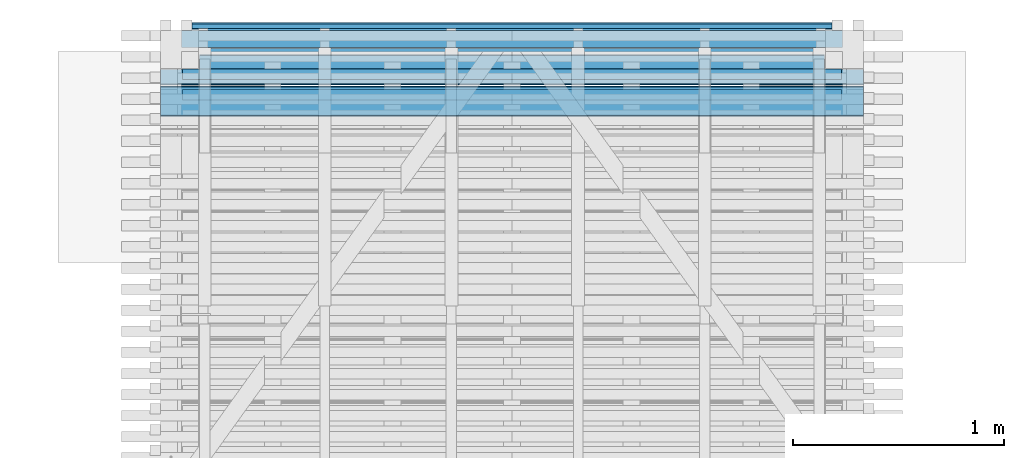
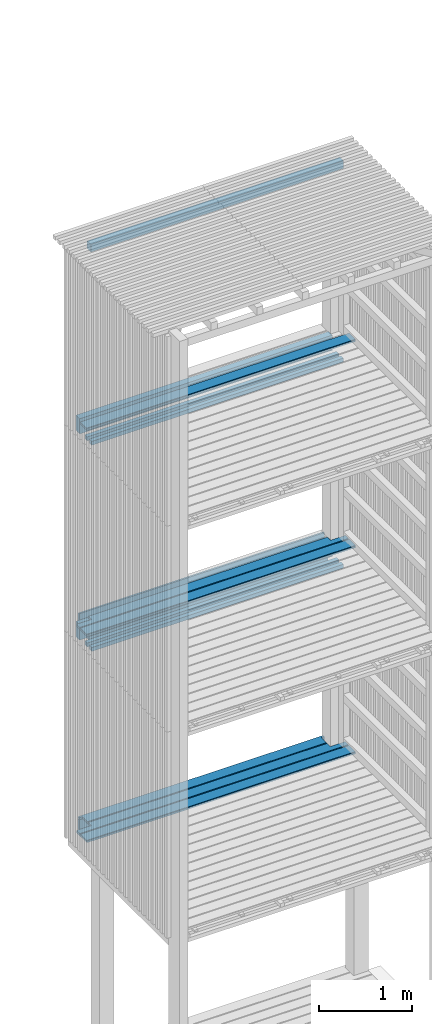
# One storey, part 153 of 182: 16 beams.
"""IFC2X3 building model written with IfcOpenShell, lengths in metres."""

from ifc_helpers import new_model, si_unit, frame, origin, place, context, project, spatial, faceted_brep, element, save


model = new_model("IFC2X3")

# Units and contexts
model_context = context("Model", 3, precision=1e-06, world=origin())
ifc_project = project(units=[si_unit("LENGTHUNIT", "METRE"), si_unit("PLANEANGLEUNIT", "RADIAN")], contexts=[model_context])

# Site, building, storey
site = spatial("IfcSite", under=ifc_project, CompositionType="ELEMENT")
building = spatial("IfcBuilding", under=site, CompositionType="ELEMENT")
storey = spatial("IfcBuildingStorey", under=building, Name="vs", CompositionType="ELEMENT", Elevation=-0.85)

# Beams
placement = place(None, origin())
beam_1_placement = place(placement, frame((33.20318180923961, 12.893577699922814, 5.342499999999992), z_axis=(0.0, 1.0, 0.0), x_axis=(1.0, 0.0, 0.0)))
element("IfcBeam", 1, at=beam_1_placement, inside=storey, Name="Caillebotis", context=model_context, shape_type="Brep", body=[
    faceted_brep([(-3e-15, -0.072500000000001, -0.013500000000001), (-3e-15, 0.072499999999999, -0.013500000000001), (3.033636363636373, 0.072499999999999, -0.013499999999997), (3.033636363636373, -0.072500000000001, -0.013499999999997), (-3e-15, -0.072500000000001, 0.008500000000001), (-3e-15, -0.072500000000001, -0.013500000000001), (3.033636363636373, -0.072500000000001, -0.013499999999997), (3.033636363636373, -0.072500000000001, 0.008500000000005), (-3e-15, -0.067500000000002, 0.0135), (-3e-15, -0.072500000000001, 0.008500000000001), (3.033636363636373, -0.072500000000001, 0.008500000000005), (3.033636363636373, -0.067500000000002, 0.013500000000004), (-3e-15, -0.072500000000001, -0.013500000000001), (-3e-15, -0.072500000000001, 0.008500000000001), (-3e-15, -0.067500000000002, 0.0135), (-3e-15, 0.0675, 0.0135), (-3e-15, 0.072499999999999, 0.008500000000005), (-3e-15, 0.072499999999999, -0.013500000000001), (-3e-15, 0.0675, 0.0135), (-3e-15, -0.067500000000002, 0.0135), (3.033636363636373, -0.067500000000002, 0.013500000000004), (3.033636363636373, 0.0675, 0.013500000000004), (-3e-15, 0.072499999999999, 0.008500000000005), (-3e-15, 0.0675, 0.0135), (3.033636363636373, 0.0675, 0.013500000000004), (3.033636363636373, 0.072499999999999, 0.008500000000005), (3.033636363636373, 0.072499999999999, -0.013499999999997), (-3e-15, 0.072499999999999, -0.013500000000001), (-3e-15, 0.072499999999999, 0.008500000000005), (3.033636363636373, 0.072499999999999, 0.008500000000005), (3.033636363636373, -0.072500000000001, 0.008500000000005), (3.033636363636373, -0.072500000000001, -0.013499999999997), (3.033636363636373, 0.072499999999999, -0.013499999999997), (3.033636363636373, 0.072499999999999, 0.008500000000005), (3.033636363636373, 0.0675, 0.013500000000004), (3.033636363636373, -0.067500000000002, 0.013500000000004)], [[[0, 1, 2, 3]], [[4, 5, 6, 7]], [[8, 9, 10, 11]], [[12, 13, 14, 15, 16, 17]], [[18, 19, 20, 21]], [[22, 23, 24, 25]], [[26, 27, 28, 29]], [[30, 31, 32, 33, 34, 35]]]),
])
beam_2_placement = place(placement, frame((36.384999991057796, 12.534577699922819, 5.433499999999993), z_axis=(0.0, 0.0, 1.0), x_axis=(-1.0, -1e-15, 0.0)))
element("IfcBeam", 2, at=beam_2_placement, inside=storey, Name="Caillebotis", context=model_context, shape_type="Brep", body=[
    faceted_brep([(3.329999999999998, -0.072500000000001, -0.0135), (3.329999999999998, 0.072500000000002, -0.0135), (3.329999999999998, 0.072500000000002, 0.008500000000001), (3.329999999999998, 0.067499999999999, 0.0135), (3.329999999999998, -0.067499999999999, 0.0135), (3.329999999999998, -0.072500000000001, 0.008500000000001), (0.0, -0.072499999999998, 0.008500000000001), (0.0, -0.067499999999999, 0.0135), (0.0, 0.067500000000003, 0.0135), (0.0, 0.072500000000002, 0.008500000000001), (0.0, 0.072500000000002, -0.0135), (0.0, -0.072499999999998, -0.0135), (3.329999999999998, 0.072500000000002, 0.008500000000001), (3.329999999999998, 0.072500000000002, -0.0135), (0.0, 0.072500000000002, -0.0135), (0.0, 0.072500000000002, 0.008500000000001), (3.329999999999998, 0.067499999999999, 0.0135), (3.329999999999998, 0.072500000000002, 0.008500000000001), (0.0, 0.072500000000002, 0.008500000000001), (0.0, 0.067500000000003, 0.0135), (3.329999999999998, -0.067499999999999, 0.0135), (3.329999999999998, 0.067499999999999, 0.0135), (0.0, 0.067500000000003, 0.0135), (0.0, -0.067499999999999, 0.0135), (3.329999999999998, -0.072500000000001, 0.008500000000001), (3.329999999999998, -0.067499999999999, 0.0135), (0.0, -0.067499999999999, 0.0135), (0.0, -0.072499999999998, 0.008500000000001), (3.329999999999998, -0.072500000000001, -0.0135), (3.329999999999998, -0.072500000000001, 0.008500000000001), (0.0, -0.072499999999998, 0.008500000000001), (0.0, -0.072499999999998, -0.0135), (0.0, 0.072500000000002, -0.0135), (3.329999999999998, 0.072500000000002, -0.0135), (3.329999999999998, -0.072500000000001, -0.0135), (0.0, -0.072499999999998, -0.0135)], [[[0, 1, 2, 3, 4, 5]], [[6, 7, 8, 9, 10, 11]], [[12, 13, 14, 15]], [[16, 17, 18, 19]], [[20, 21, 22, 23]], [[24, 25, 26, 27]], [[28, 29, 30, 31]], [[32, 33, 34, 35]]]),
])
beam_3_placement = place(placement, frame((36.384999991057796, 12.534577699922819, 2.733499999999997), z_axis=(0.0, 0.0, 1.0), x_axis=(-1.0, -1e-15, 0.0)))
element("IfcBeam", 3, at=beam_3_placement, inside=storey, Name="Caillebotis", context=model_context, shape_type="Brep", body=[
    faceted_brep([(3.329999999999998, -0.072500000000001, -0.0135), (3.329999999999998, 0.072500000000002, -0.0135), (3.329999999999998, 0.072500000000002, 0.008500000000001), (3.329999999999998, 0.067499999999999, 0.0135), (3.329999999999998, -0.067499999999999, 0.0135), (3.329999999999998, -0.072500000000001, 0.008500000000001), (0.0, -0.072499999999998, 0.008500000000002), (0.0, -0.067499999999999, 0.0135), (0.0, 0.067500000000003, 0.0135), (0.0, 0.072500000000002, 0.008500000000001), (0.0, 0.072500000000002, -0.0135), (0.0, -0.072499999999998, -0.0135), (3.329999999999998, 0.072500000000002, 0.008500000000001), (3.329999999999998, 0.072500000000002, -0.0135), (0.0, 0.072500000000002, -0.0135), (0.0, 0.072500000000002, 0.008500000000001), (3.329999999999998, 0.067499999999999, 0.0135), (3.329999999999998, 0.072500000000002, 0.008500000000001), (0.0, 0.072500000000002, 0.008500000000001), (0.0, 0.067500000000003, 0.0135), (3.329999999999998, -0.067499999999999, 0.0135), (3.329999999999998, 0.067499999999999, 0.0135), (0.0, 0.067500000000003, 0.0135), (0.0, -0.067499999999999, 0.0135), (3.329999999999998, -0.072500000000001, 0.008500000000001), (3.329999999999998, -0.067499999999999, 0.0135), (0.0, -0.067499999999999, 0.0135), (0.0, -0.072499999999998, 0.008500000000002), (3.329999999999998, -0.072500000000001, -0.0135), (3.329999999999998, -0.072500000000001, 0.008500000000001), (0.0, -0.072499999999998, 0.008500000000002), (0.0, -0.072499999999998, -0.0135), (0.0, 0.072500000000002, -0.0135), (3.329999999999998, 0.072500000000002, -0.0135), (3.329999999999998, -0.072500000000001, -0.0135), (0.0, -0.072499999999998, -0.0135)], [[[0, 1, 2, 3, 4, 5]], [[6, 7, 8, 9, 10, 11]], [[12, 13, 14, 15]], [[16, 17, 18, 19]], [[20, 21, 22, 23]], [[24, 25, 26, 27]], [[28, 29, 30, 31]], [[32, 33, 34, 35]]]),
])
beam_4_placement = place(placement, frame((36.384999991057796, 12.684577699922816, 2.733499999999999), z_axis=(0.0, 0.0, 1.0), x_axis=(-1.0, 0.0, 0.0)))
element("IfcBeam", 4, at=beam_4_placement, inside=storey, Name="Caillebotis", context=model_context, shape_type="Brep", body=[
    faceted_brep([(3.144999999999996, -0.000499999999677, 0.0135), (3.144999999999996, -0.000499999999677, -0.0135), (3.329999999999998, -0.000499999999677, -0.0135), (3.329999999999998, -0.000499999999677, 0.0135), (3.329999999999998, 0.072500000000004, -0.0135), (3.329999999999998, 0.0725, 0.0085), (3.329999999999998, 0.067500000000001, 0.0135), (3.329999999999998, -0.000499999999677, 0.0135), (3.329999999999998, -0.000499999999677, -0.0135), (3.144999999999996, -0.072499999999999, 0.008500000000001), (3.144999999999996, -0.072499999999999, -0.013500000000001), (3.144999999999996, -0.000499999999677, -0.0135), (3.144999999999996, -0.000499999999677, 0.0135), (3.144999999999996, -0.0675, 0.0135), (3.144999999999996, -0.072499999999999, -0.013500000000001), (3.144999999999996, -0.072499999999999, 0.008500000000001), (0.185000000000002, -0.072499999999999, 0.008500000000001), (0.185000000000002, -0.072499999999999, -0.0135), (3.144999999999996, -0.072499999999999, 0.008500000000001), (3.144999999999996, -0.0675, 0.0135), (0.185000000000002, -0.067500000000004, 0.0135), (0.185000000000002, -0.072499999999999, 0.008500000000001), (0.185000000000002, -0.072499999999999, -0.0135), (0.185000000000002, -0.072499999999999, 0.008500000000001), (0.185000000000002, -0.067500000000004, 0.0135), (0.185000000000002, -0.000499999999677, 0.0135), (0.185000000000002, -0.000499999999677, -0.0135), (1.4e-14, -0.000499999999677, 0.0135), (0.0, 0.067500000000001, 0.0135), (0.0, 0.0725, 0.008500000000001), (0.0, 0.0725, -0.0135), (0.0, -0.000499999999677, -0.0135), (3.329999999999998, 0.0725, 0.0085), (3.329999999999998, 0.072500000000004, -0.0135), (0.0, 0.0725, -0.0135), (0.0, 0.0725, 0.008500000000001), (3.329999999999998, 0.067500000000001, 0.0135), (3.329999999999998, 0.0725, 0.0085), (0.0, 0.0725, 0.008500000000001), (0.0, 0.067500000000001, 0.0135), (3.144999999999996, -0.0675, 0.0135), (3.144999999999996, -0.000499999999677, 0.0135), (3.329999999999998, -0.000499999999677, 0.0135), (3.329999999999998, 0.067500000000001, 0.0135), (0.0, 0.067500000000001, 0.0135), (1.4e-14, -0.000499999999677, 0.0135), (0.185000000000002, -0.000499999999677, 0.0135), (0.185000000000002, -0.067500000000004, 0.0135), (0.185000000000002, -0.000499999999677, -0.0135), (0.185000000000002, -0.000499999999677, 0.0135), (1.4e-14, -0.000499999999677, 0.0135), (0.0, -0.000499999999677, -0.0135), (0.0, -0.000499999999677, -0.0135), (0.0, 0.0725, -0.0135), (3.329999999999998, 0.072500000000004, -0.0135), (3.329999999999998, -0.000499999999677, -0.0135), (3.144999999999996, -0.000499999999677, -0.0135), (3.144999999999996, -0.072499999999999, -0.013500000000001), (0.185000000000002, -0.072499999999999, -0.0135), (0.185000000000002, -0.000499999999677, -0.0135)], [[[0, 1, 2, 3]], [[4, 5, 6, 7, 8]], [[9, 10, 11, 12, 13]], [[14, 15, 16, 17]], [[18, 19, 20, 21]], [[22, 23, 24, 25, 26]], [[27, 28, 29, 30, 31]], [[32, 33, 34, 35]], [[36, 37, 38, 39]], [[40, 41, 42, 43, 44, 45, 46, 47]], [[48, 49, 50, 51]], [[52, 53, 54, 55, 56, 57, 58, 59]]]),
])
beam_5_placement = place(placement, frame((36.199999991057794, 12.760077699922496, 5.167399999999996), z_axis=(0.0, 0.0, 1.0), x_axis=(-1.0, 0.0, 0.0)))
element("IfcBeam", 5, at=beam_5_placement, inside=storey, Name="Bardage", context=model_context, shape_type="Brep", body=[
    faceted_brep([(2.96000000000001, -0.024999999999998, 0.025), (2.96000000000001, -0.024999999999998, -0.025), (2.96000000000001, 0.025000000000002, -0.025), (2.96000000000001, 0.025000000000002, 0.025), (2e-15, 0.024999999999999, 0.025), (2e-15, 0.024999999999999, -0.025), (2e-15, -0.024999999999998, -0.025), (2e-15, -0.024999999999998, 0.025), (2e-15, -0.024999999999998, -0.025), (2e-15, 0.024999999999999, -0.025), (2.96000000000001, 0.025000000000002, -0.025), (2.96000000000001, -0.024999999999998, -0.025), (2e-15, 0.024999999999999, -0.025), (2e-15, 0.024999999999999, 0.025), (2.96000000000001, 0.025000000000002, 0.025), (2.96000000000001, 0.025000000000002, -0.025), (2e-15, 0.024999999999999, 0.025), (2e-15, -0.024999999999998, 0.025), (2.96000000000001, -0.024999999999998, 0.025), (2.96000000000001, 0.025000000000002, 0.025), (2e-15, -0.024999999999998, 0.025), (2e-15, -0.024999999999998, -0.025), (2.96000000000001, -0.024999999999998, -0.025), (2.96000000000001, -0.024999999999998, 0.025)], [[[0, 1, 2, 3]], [[4, 5, 6, 7]], [[8, 9, 10, 11]], [[12, 13, 14, 15]], [[16, 17, 18, 19]], [[20, 21, 22, 23]]]),
])
beam_6_placement = place(placement, frame((36.27999999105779, 12.662994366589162, 5.167399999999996), z_axis=(0.0, 0.0, 1.0), x_axis=(-1.0, -1e-15, 0.0)))
element("IfcBeam", 6, at=beam_6_placement, inside=storey, Name="Bardage", context=model_context, shape_type="Brep", body=[
    faceted_brep([(3.120000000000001, 0.024999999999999, -0.025), (3.120000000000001, 0.024999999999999, 0.025), (3.120000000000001, -0.025000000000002, 0.025), (3.120000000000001, -0.025000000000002, -0.025), (-3e-15, -0.024999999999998, -0.025), (-3e-15, -0.024999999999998, 0.025), (-3e-15, 0.025000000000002, 0.025), (-3e-15, 0.025000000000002, -0.025), (-3e-15, 0.025000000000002, -0.025), (-3e-15, 0.025000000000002, 0.025), (3.120000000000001, 0.024999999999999, 0.025), (3.120000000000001, 0.024999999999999, -0.025), (-3e-15, 0.025000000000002, 0.025), (-3e-15, -0.024999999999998, 0.025), (3.120000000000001, -0.025000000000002, 0.025), (3.120000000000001, 0.024999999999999, 0.025), (-3e-15, -0.024999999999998, 0.025), (-3e-15, -0.024999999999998, -0.025), (3.120000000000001, -0.025000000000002, -0.025), (3.120000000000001, -0.025000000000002, 0.025), (-3e-15, -0.024999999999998, -0.025), (-3e-15, 0.025000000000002, -0.025), (3.120000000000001, 0.024999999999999, -0.025), (3.120000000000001, -0.025000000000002, -0.025)], [[[0, 1, 2, 3]], [[4, 5, 6, 7]], [[8, 9, 10, 11]], [[12, 13, 14, 15]], [[16, 17, 18, 19]], [[20, 21, 22, 23]]]),
])
beam_7_placement = place(placement, frame((36.384999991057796, 12.684577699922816, 5.433499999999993), z_axis=(0.0, 0.0, 1.0), x_axis=(-1.0, 0.0, 0.0)))
element("IfcBeam", 7, at=beam_7_placement, inside=storey, Name="Caillebotis", context=model_context, shape_type="Brep", body=[
    faceted_brep([(3.144999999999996, -0.000499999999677, 0.0135), (3.144999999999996, -0.000499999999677, -0.0135), (3.329999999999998, -0.000499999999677, -0.0135), (3.329999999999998, -0.000499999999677, 0.0135), (3.329999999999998, 0.072500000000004, -0.0135), (3.329999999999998, 0.0725, 0.008500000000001), (3.329999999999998, 0.067500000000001, 0.0135), (3.329999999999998, -0.000499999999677, 0.0135), (3.329999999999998, -0.000499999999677, -0.0135), (3.144999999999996, -0.072499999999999, 0.008500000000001), (3.144999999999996, -0.072499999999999, -0.013500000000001), (3.144999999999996, -0.000499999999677, -0.0135), (3.144999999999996, -0.000499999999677, 0.0135), (3.144999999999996, -0.0675, 0.0135), (3.144999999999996, -0.072499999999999, -0.013500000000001), (3.144999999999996, -0.072499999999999, 0.008500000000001), (0.185000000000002, -0.072499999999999, 0.008500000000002), (0.185000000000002, -0.072499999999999, -0.0135), (3.144999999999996, -0.072499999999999, 0.008500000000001), (3.144999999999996, -0.0675, 0.0135), (0.185000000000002, -0.067500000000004, 0.0135), (0.185000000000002, -0.072499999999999, 0.008500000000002), (0.185000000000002, -0.072499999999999, -0.0135), (0.185000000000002, -0.072499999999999, 0.008500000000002), (0.185000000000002, -0.067500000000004, 0.0135), (0.185000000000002, -0.000499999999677, 0.0135), (0.185000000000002, -0.000499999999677, -0.0135), (1.4e-14, -0.000499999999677, 0.0135), (0.0, 0.067500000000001, 0.0135), (0.0, 0.0725, 0.008500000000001), (0.0, 0.0725, -0.0135), (0.0, -0.000499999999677, -0.0135), (3.329999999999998, 0.0725, 0.008500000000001), (3.329999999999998, 0.072500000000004, -0.0135), (0.0, 0.0725, -0.0135), (0.0, 0.0725, 0.008500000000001), (3.329999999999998, 0.067500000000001, 0.0135), (3.329999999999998, 0.0725, 0.008500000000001), (0.0, 0.0725, 0.008500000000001), (0.0, 0.067500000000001, 0.0135), (3.144999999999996, -0.0675, 0.0135), (3.144999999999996, -0.000499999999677, 0.0135), (3.329999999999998, -0.000499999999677, 0.0135), (3.329999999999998, 0.067500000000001, 0.0135), (0.0, 0.067500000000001, 0.0135), (1.4e-14, -0.000499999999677, 0.0135), (0.185000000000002, -0.000499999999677, 0.0135), (0.185000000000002, -0.067500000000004, 0.0135), (0.185000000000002, -0.000499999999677, -0.0135), (0.185000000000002, -0.000499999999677, 0.0135), (1.4e-14, -0.000499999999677, 0.0135), (0.0, -0.000499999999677, -0.0135), (0.0, -0.000499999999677, -0.0135), (0.0, 0.0725, -0.0135), (3.329999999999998, 0.072500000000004, -0.0135), (3.329999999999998, -0.000499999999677, -0.0135), (3.144999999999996, -0.000499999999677, -0.0135), (3.144999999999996, -0.072499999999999, -0.013500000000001), (0.185000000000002, -0.072499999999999, -0.0135), (0.185000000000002, -0.000499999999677, -0.0135)], [[[0, 1, 2, 3]], [[4, 5, 6, 7, 8]], [[9, 10, 11, 12, 13]], [[14, 15, 16, 17]], [[18, 19, 20, 21]], [[22, 23, 24, 25, 26]], [[27, 28, 29, 30, 31]], [[32, 33, 34, 35]], [[36, 37, 38, 39]], [[40, 41, 42, 43, 44, 45, 46, 47]], [[48, 49, 50, 51]], [[52, 53, 54, 55, 56, 57, 58, 59]]]),
])
beam_8_placement = place(placement, frame((36.28499999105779, 12.830077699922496, 7.93999999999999), z_axis=(0.0, 0.0, 1.0), x_axis=(-1.0, 0.0, 0.0)))
element("IfcBeam", 8, at=beam_8_placement, inside=storey, Name="Sommier", context=model_context, shape_type="Brep", body=[
    faceted_brep([(3.129999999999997, -0.039999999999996, 0.1), (3.129999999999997, 0.040000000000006, 0.1), (1e-15, 0.040000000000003, 0.1), (1e-15, -0.039999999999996, 0.1), (3.129999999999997, -0.039999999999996, -0.100000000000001), (3.129999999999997, -0.039999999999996, 0.1), (1e-15, -0.039999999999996, 0.1), (1e-15, -0.039999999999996, -0.100000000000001), (3.129999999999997, -0.039999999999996, 0.1), (3.129999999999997, -0.039999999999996, -0.100000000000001), (3.129999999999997, 0.040000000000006, -0.1), (3.129999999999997, 0.040000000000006, 0.1), (3.129999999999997, 0.040000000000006, -0.1), (3.129999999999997, -0.039999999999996, -0.100000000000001), (1e-15, -0.039999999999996, -0.100000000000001), (1e-15, 0.040000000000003, -0.100000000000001), (1e-15, 0.040000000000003, 0.1), (3.129999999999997, 0.040000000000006, 0.1), (3.129999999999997, 0.040000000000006, -0.1), (1e-15, 0.040000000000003, -0.100000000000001), (1e-15, -0.039999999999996, 0.1), (1e-15, 0.040000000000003, 0.1), (1e-15, 0.040000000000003, -0.100000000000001), (1e-15, -0.039999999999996, -0.100000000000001)], [[[0, 1, 2, 3]], [[4, 5, 6, 7]], [[8, 9, 10, 11]], [[12, 13, 14, 15]], [[16, 17, 18, 19]], [[20, 21, 22, 23]]]),
])
beam_9_placement = place(placement, frame((36.27999999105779, 12.565911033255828, 5.167399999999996), z_axis=(0.0, 0.0, 1.0), x_axis=(-1.0, 0.0, 0.0)))
element("IfcBeam", 9, at=beam_9_placement, inside=storey, Name="Bardage", context=model_context, shape_type="Brep", body=[
    faceted_brep([(3.120000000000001, 0.025000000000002, -0.025), (3.120000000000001, 0.025000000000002, 0.024999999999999), (3.120000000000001, -0.024999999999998, 0.024999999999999), (3.120000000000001, -0.024999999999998, -0.025), (-3e-15, -0.024999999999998, -0.025), (-3e-15, -0.024999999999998, 0.024999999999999), (-3e-15, 0.024999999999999, 0.024999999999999), (-3e-15, 0.024999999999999, -0.025), (-3e-15, 0.024999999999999, -0.025), (-3e-15, 0.024999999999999, 0.024999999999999), (3.120000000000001, 0.025000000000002, 0.024999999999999), (3.120000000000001, 0.025000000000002, -0.025), (-3e-15, 0.024999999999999, 0.024999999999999), (-3e-15, -0.024999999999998, 0.024999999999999), (3.120000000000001, -0.024999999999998, 0.024999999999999), (3.120000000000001, 0.025000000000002, 0.024999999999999), (-3e-15, -0.024999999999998, 0.024999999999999), (-3e-15, -0.024999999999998, -0.025), (3.120000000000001, -0.024999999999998, -0.025), (3.120000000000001, -0.024999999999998, 0.024999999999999), (-3e-15, -0.024999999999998, -0.025), (-3e-15, 0.024999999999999, -0.025), (3.120000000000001, 0.025000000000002, -0.025), (3.120000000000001, -0.024999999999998, -0.025)], [[[0, 1, 2, 3]], [[4, 5, 6, 7]], [[8, 9, 10, 11]], [[12, 13, 14, 15]], [[16, 17, 18, 19]], [[20, 21, 22, 23]]]),
])
beam_10_placement = place(placement, frame((36.27999999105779, 12.662994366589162, 7.86739999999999), z_axis=(0.0, 0.0, 1.0), x_axis=(-1.0, -1e-15, 0.0)))
element("IfcBeam", 10, at=beam_10_placement, inside=storey, Name="Bardage", context=model_context, shape_type="Brep", body=[
    faceted_brep([(3.120000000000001, 0.024999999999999, -0.024999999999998), (3.120000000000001, 0.024999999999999, 0.025000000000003), (3.120000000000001, -0.025000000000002, 0.025000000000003), (3.120000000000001, -0.025000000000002, -0.024999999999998), (-3e-15, -0.024999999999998, -0.024999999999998), (-3e-15, -0.024999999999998, 0.025000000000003), (-3e-15, 0.025000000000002, 0.025000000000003), (-3e-15, 0.025000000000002, -0.024999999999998), (-3e-15, 0.025000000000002, -0.024999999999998), (-3e-15, 0.025000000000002, 0.025000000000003), (3.120000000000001, 0.024999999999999, 0.025000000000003), (3.120000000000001, 0.024999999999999, -0.024999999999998), (-3e-15, 0.025000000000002, 0.025000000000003), (-3e-15, -0.024999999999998, 0.025000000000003), (3.120000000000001, -0.025000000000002, 0.025000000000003), (3.120000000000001, 0.024999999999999, 0.025000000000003), (-3e-15, -0.024999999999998, 0.025000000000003), (-3e-15, -0.024999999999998, -0.024999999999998), (3.120000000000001, -0.025000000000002, -0.024999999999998), (3.120000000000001, -0.025000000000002, 0.025000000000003), (-3e-15, -0.024999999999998, -0.024999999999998), (-3e-15, 0.025000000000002, -0.024999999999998), (3.120000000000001, 0.024999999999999, -0.024999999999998), (3.120000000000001, -0.025000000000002, -0.024999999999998)], [[[0, 1, 2, 3]], [[4, 5, 6, 7]], [[8, 9, 10, 11]], [[12, 13, 14, 15]], [[16, 17, 18, 19]], [[20, 21, 22, 23]]]),
])
beam_11_placement = place(placement, frame((36.384999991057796, 12.534577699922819, 8.13349999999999), z_axis=(0.0, 0.0, 1.0), x_axis=(-1.0, -1e-15, 0.0)))
element("IfcBeam", 11, at=beam_11_placement, inside=storey, Name="Caillebotis", context=model_context, shape_type="Brep", body=[
    faceted_brep([(3.329999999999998, -0.072500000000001, -0.013500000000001), (3.329999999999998, 0.072500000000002, -0.013500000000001), (3.329999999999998, 0.072500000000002, 0.0085), (3.329999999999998, 0.067499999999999, 0.013499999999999), (3.329999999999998, -0.067499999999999, 0.013499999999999), (3.329999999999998, -0.072500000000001, 0.0085), (0.0, -0.072499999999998, 0.0085), (0.0, -0.067499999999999, 0.013499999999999), (0.0, 0.067500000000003, 0.013499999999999), (0.0, 0.072500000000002, 0.0085), (0.0, 0.072500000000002, -0.013500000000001), (0.0, -0.072499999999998, -0.013500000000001), (3.329999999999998, 0.072500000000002, 0.0085), (3.329999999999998, 0.072500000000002, -0.013500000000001), (0.0, 0.072500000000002, -0.013500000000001), (0.0, 0.072500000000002, 0.0085), (3.329999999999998, 0.067499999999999, 0.013499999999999), (3.329999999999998, 0.072500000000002, 0.0085), (0.0, 0.072500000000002, 0.0085), (0.0, 0.067500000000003, 0.013499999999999), (3.329999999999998, -0.067499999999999, 0.013499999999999), (3.329999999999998, 0.067499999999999, 0.013499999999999), (0.0, 0.067500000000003, 0.013499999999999), (0.0, -0.067499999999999, 0.013499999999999), (3.329999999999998, -0.072500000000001, 0.0085), (3.329999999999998, -0.067499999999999, 0.013499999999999), (0.0, -0.067499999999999, 0.013499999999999), (0.0, -0.072499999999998, 0.0085), (3.329999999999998, -0.072500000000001, -0.013500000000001), (3.329999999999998, -0.072500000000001, 0.0085), (0.0, -0.072499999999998, 0.0085), (0.0, -0.072499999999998, -0.013500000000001), (0.0, 0.072500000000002, -0.013500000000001), (3.329999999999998, 0.072500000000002, -0.013500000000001), (3.329999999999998, -0.072500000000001, -0.013500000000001), (0.0, -0.072499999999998, -0.013500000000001)], [[[0, 1, 2, 3, 4, 5]], [[6, 7, 8, 9, 10, 11]], [[12, 13, 14, 15]], [[16, 17, 18, 19]], [[20, 21, 22, 23]], [[24, 25, 26, 27]], [[28, 29, 30, 31]], [[32, 33, 34, 35]]]),
])
beam_12_placement = place(placement, frame((33.20318180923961, 12.893577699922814, 2.642499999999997), z_axis=(0.0, 1.0, 0.0), x_axis=(1.0, 0.0, 0.0)))
element("IfcBeam", 12, at=beam_12_placement, inside=storey, Name="Caillebotis", context=model_context, shape_type="Brep", body=[
    faceted_brep([(-3e-15, -0.0725, -0.013500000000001), (-3e-15, 0.0725, -0.013500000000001), (3.033636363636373, 0.0725, -0.013499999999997), (3.033636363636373, -0.0725, -0.013499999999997), (-3e-15, -0.0725, 0.008500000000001), (-3e-15, -0.0725, -0.013500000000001), (3.033636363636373, -0.0725, -0.013499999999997), (3.033636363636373, -0.0725, 0.008500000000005), (-3e-15, -0.067500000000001, 0.0135), (-3e-15, -0.0725, 0.008500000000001), (3.033636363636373, -0.0725, 0.008500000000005), (3.033636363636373, -0.067500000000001, 0.013500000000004), (-3e-15, -0.0725, -0.013500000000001), (-3e-15, -0.0725, 0.008500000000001), (-3e-15, -0.067500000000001, 0.0135), (-3e-15, 0.067500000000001, 0.0135), (-3e-15, 0.0725, 0.008500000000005), (-3e-15, 0.0725, -0.013500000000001), (-3e-15, 0.067500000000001, 0.0135), (-3e-15, -0.067500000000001, 0.0135), (3.033636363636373, -0.067500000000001, 0.013500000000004), (3.033636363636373, 0.067500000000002, 0.013500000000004), (-3e-15, 0.0725, 0.008500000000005), (-3e-15, 0.067500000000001, 0.0135), (3.033636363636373, 0.067500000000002, 0.013500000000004), (3.033636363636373, 0.0725, 0.008500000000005), (3.033636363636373, 0.0725, -0.013499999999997), (-3e-15, 0.0725, -0.013500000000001), (-3e-15, 0.0725, 0.008500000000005), (3.033636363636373, 0.0725, 0.008500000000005), (3.033636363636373, -0.0725, 0.008500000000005), (3.033636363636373, -0.0725, -0.013499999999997), (3.033636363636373, 0.0725, -0.013499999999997), (3.033636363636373, 0.0725, 0.008500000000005), (3.033636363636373, 0.067500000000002, 0.013500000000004), (3.033636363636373, -0.067500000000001, 0.013500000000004)], [[[0, 1, 2, 3]], [[4, 5, 6, 7]], [[8, 9, 10, 11]], [[12, 13, 14, 15, 16, 17]], [[18, 19, 20, 21]], [[22, 23, 24, 25]], [[26, 27, 28, 29]], [[30, 31, 32, 33, 34, 35]]]),
])
beam_13_placement = place(placement, frame((36.236818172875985, 12.834577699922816, 2.733499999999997), z_axis=(0.0, 0.0, 1.0), x_axis=(-1.0, 0.0, 0.0)))
element("IfcBeam", 13, at=beam_13_placement, inside=storey, Name="Caillebotis", context=model_context, shape_type="Brep", body=[
    faceted_brep([(3.033636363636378, -0.072499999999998, -0.0135), (3.033636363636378, -0.072499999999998, 0.008500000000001), (2e-15, -0.072499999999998, 0.008500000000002), (2e-15, -0.072500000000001, -0.0135), (2.996818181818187, 0.072500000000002, 0.0085), (2.996818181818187, 0.067500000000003, 0.0135), (2.996818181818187, -0.040499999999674, 0.0135), (2.996818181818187, -0.040499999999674, -0.0135), (2.996818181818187, 0.072500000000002, -0.0135), (0.036818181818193, -0.040499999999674, -0.0135), (0.036818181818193, 0.072499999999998, -0.0135), (2.996818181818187, 0.072500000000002, -0.0135), (2.996818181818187, -0.040499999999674, -0.0135), (3.033636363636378, -0.040499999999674, -0.0135), (3.033636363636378, -0.072499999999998, -0.0135), (2e-15, -0.072500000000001, -0.0135), (2e-15, -0.040499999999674, -0.0135), (3.033636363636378, -0.072499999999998, 0.008500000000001), (3.033636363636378, -0.072499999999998, -0.0135), (3.033636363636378, -0.040499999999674, -0.0135), (3.033636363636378, -0.040499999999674, 0.0135), (3.033636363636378, -0.067500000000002, 0.0135), (3.033636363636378, -0.040499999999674, 0.0135), (3.033636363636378, -0.040499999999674, -0.0135), (2.996818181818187, -0.040499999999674, -0.0135), (2.996818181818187, -0.040499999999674, 0.0135), (2.996818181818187, 0.072500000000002, 0.0085), (2.996818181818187, 0.072500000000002, -0.0135), (0.036818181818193, 0.072499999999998, -0.0135), (0.036818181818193, 0.072499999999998, 0.0085), (2.996818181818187, 0.067500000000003, 0.0135), (2.996818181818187, 0.072500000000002, 0.0085), (0.036818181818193, 0.072499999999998, 0.0085), (0.036818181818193, 0.067500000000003, 0.0135), (0.036818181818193, 0.067500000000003, 0.0135), (0.036818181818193, 0.072499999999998, 0.0085), (0.036818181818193, 0.072499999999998, -0.0135), (0.036818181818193, -0.040499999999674, -0.0135), (0.036818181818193, -0.040499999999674, 0.0135), (0.036818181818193, -0.040499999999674, 0.0135), (0.036818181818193, -0.040499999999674, -0.0135), (2e-15, -0.040499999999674, -0.0135), (2e-15, -0.040499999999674, 0.0135), (3.033636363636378, -0.067500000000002, 0.0135), (3.033636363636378, -0.040499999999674, 0.0135), (2.996818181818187, -0.040499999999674, 0.0135), (2.996818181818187, 0.067500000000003, 0.0135), (0.036818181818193, 0.067500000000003, 0.0135), (0.036818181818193, -0.040499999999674, 0.0135), (2e-15, -0.040499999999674, 0.0135), (2e-15, -0.067500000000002, 0.0135), (2e-15, -0.072499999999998, 0.008500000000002), (3.033636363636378, -0.072499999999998, 0.008500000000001), (3.033636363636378, -0.067500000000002, 0.0135), (2e-15, -0.067500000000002, 0.0135), (2e-15, -0.072500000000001, -0.0135), (2e-15, -0.072499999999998, 0.008500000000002), (2e-15, -0.067500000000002, 0.0135), (2e-15, -0.040499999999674, 0.0135), (2e-15, -0.040499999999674, -0.0135)], [[[0, 1, 2, 3]], [[4, 5, 6, 7, 8]], [[9, 10, 11, 12, 13, 14, 15, 16]], [[17, 18, 19, 20, 21]], [[22, 23, 24, 25]], [[26, 27, 28, 29]], [[30, 31, 32, 33]], [[34, 35, 36, 37, 38]], [[39, 40, 41, 42]], [[43, 44, 45, 46, 47, 48, 49, 50]], [[51, 52, 53, 54]], [[55, 56, 57, 58, 59]]]),
])
beam_14_placement = place(placement, frame((36.28499999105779, 12.830077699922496, 5.239999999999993), z_axis=(0.0, 0.0, 1.0), x_axis=(-1.0, 0.0, 0.0)))
element("IfcBeam", 14, at=beam_14_placement, inside=storey, Name="Sommier", context=model_context, shape_type="Brep", body=[
    faceted_brep([(3.129999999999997, -0.039999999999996, 0.100000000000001), (3.129999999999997, 0.040000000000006, 0.100000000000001), (1e-15, 0.040000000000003, 0.100000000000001), (1e-15, -0.039999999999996, 0.100000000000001), (3.129999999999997, -0.039999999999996, -0.1), (3.129999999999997, -0.039999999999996, 0.100000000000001), (1e-15, -0.039999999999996, 0.100000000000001), (1e-15, -0.039999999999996, -0.1), (3.129999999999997, -0.039999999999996, 0.100000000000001), (3.129999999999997, -0.039999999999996, -0.1), (3.129999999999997, 0.040000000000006, -0.099999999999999), (3.129999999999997, 0.040000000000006, 0.100000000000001), (3.129999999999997, 0.040000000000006, -0.099999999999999), (3.129999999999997, -0.039999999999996, -0.1), (1e-15, -0.039999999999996, -0.1), (1e-15, 0.040000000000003, -0.1), (1e-15, 0.040000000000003, 0.100000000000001), (3.129999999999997, 0.040000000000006, 0.100000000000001), (3.129999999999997, 0.040000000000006, -0.099999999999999), (1e-15, 0.040000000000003, -0.1), (1e-15, -0.039999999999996, 0.100000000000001), (1e-15, 0.040000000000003, 0.100000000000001), (1e-15, 0.040000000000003, -0.1), (1e-15, -0.039999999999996, -0.1)], [[[0, 1, 2, 3]], [[4, 5, 6, 7]], [[8, 9, 10, 11]], [[12, 13, 14, 15]], [[16, 17, 18, 19]], [[20, 21, 22, 23]]]),
])
beam_15_placement = place(placement, frame((36.3649999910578, 12.730077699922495, 10.30499999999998), z_axis=(0.0, 0.0, 1.0), x_axis=(-1.0, 0.0, 0.0)))
element("IfcBeam", 15, at=beam_15_placement, inside=storey, Name="Support bardage", context=model_context, shape_type="Brep", body=[
    faceted_brep([(3e-15, 0.04, -0.050000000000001), (3e-15, -0.039999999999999, -0.050000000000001), (3e-15, -0.039999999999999, 0.050000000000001), (3e-15, 0.04, 0.050000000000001), (3.129999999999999, -0.039999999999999, 0.050000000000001), (3.129999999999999, -0.039999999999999, -0.050000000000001), (3.129999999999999, 0.04, -0.050000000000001), (3.129999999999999, 0.04, 0.050000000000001), (3e-15, -0.039999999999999, -0.050000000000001), (3e-15, 0.04, -0.050000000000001), (3.129999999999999, 0.04, -0.050000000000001), (3.129999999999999, -0.039999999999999, -0.050000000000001), (3e-15, -0.039999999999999, 0.050000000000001), (3e-15, -0.039999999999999, -0.050000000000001), (3.129999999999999, -0.039999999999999, -0.050000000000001), (3.129999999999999, -0.039999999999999, 0.050000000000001), (3e-15, 0.04, 0.050000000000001), (3e-15, -0.039999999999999, 0.050000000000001), (3.129999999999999, -0.039999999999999, 0.050000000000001), (3.129999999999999, 0.04, 0.050000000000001), (3.129999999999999, 0.04, -0.050000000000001), (3e-15, 0.04, -0.050000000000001), (3e-15, 0.04, 0.050000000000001), (3.129999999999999, 0.04, 0.050000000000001)], [[[0, 1, 2, 3]], [[4, 5, 6, 7]], [[8, 9, 10, 11]], [[12, 13, 14, 15]], [[16, 17, 18, 19]], [[20, 21, 22, 23]]]),
])
beam_16_placement = place(placement, frame((36.27999999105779, 12.565911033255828, 7.86739999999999), z_axis=(0.0, 0.0, 1.0), x_axis=(-1.0, 0.0, 0.0)))
element("IfcBeam", 16, at=beam_16_placement, inside=storey, Name="Bardage", context=model_context, shape_type="Brep", body=[
    faceted_brep([(3.120000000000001, 0.025000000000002, -0.024999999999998), (3.120000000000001, 0.025000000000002, 0.025000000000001), (3.120000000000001, -0.024999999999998, 0.025000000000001), (3.120000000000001, -0.024999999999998, -0.024999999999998), (-3e-15, -0.024999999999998, -0.024999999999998), (-3e-15, -0.024999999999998, 0.025000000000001), (-3e-15, 0.025000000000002, 0.025000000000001), (-3e-15, 0.025000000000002, -0.024999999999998), (-3e-15, 0.025000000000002, -0.024999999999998), (-3e-15, 0.025000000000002, 0.025000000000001), (3.120000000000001, 0.025000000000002, 0.025000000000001), (3.120000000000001, 0.025000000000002, -0.024999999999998), (-3e-15, 0.025000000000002, 0.025000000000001), (-3e-15, -0.024999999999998, 0.025000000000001), (3.120000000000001, -0.024999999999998, 0.025000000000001), (3.120000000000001, 0.025000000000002, 0.025000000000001), (-3e-15, -0.024999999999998, 0.025000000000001), (-3e-15, -0.024999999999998, -0.024999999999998), (3.120000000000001, -0.024999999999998, -0.024999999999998), (3.120000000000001, -0.024999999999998, 0.025000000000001), (-3e-15, -0.024999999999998, -0.024999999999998), (-3e-15, 0.025000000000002, -0.024999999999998), (3.120000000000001, 0.025000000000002, -0.024999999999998), (3.120000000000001, -0.024999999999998, -0.024999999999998)], [[[0, 1, 2, 3]], [[4, 5, 6, 7]], [[8, 9, 10, 11]], [[12, 13, 14, 15]], [[16, 17, 18, 19]], [[20, 21, 22, 23]]]),
])

save(model, "model.ifc")
